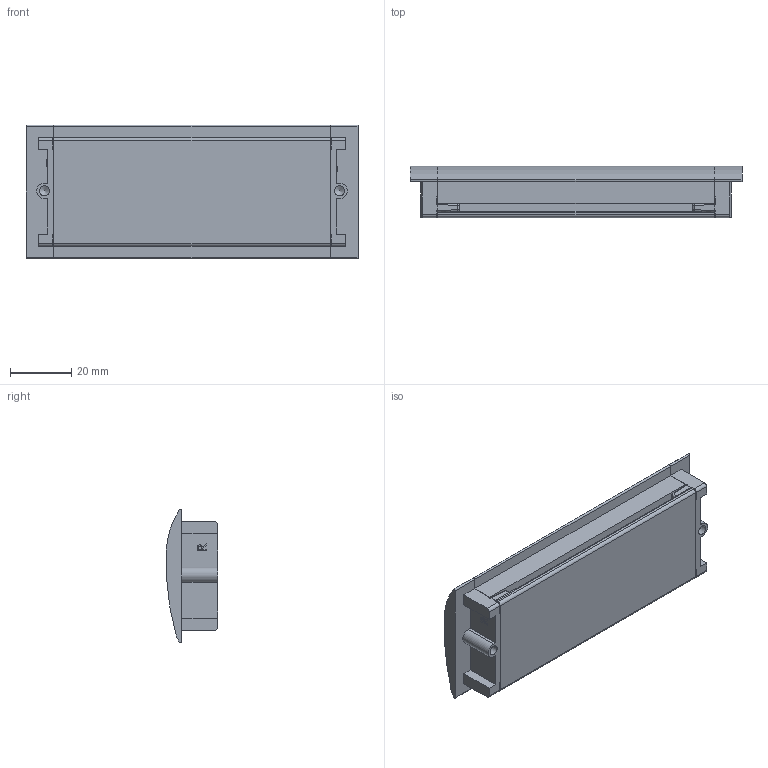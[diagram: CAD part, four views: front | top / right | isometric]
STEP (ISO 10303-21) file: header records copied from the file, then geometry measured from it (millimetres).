
FILE_DESCRIPTION(/* description */ (''),/* implementation_level */ '2;1');
FILE_NAME(/* name */ 'D:\$WorkingFolder\Designs\Meblowka\uchwyty\UA-...-326\UA-...-326...-..._\UA-...-326096-....stp',/* time_stamp */ '2020-11-20T10:35:37+01:00',/* author */ ('ElizaL'),/* organization */ (''),/* preprocessor_version */ 'ST-DEVELOPER v18.1',/* originating_system */ 'Autodesk Inventor 2020',/* authorisation */ '');
FILE_SCHEMA (('AUTOMOTIVE_DESIGN { 1 0 10303 214 3 1 1 }'));
Length unit declared in the file: millimetre
Products named in the file (1): UA-...-326096-...
Bounding box: 108 x 16.7 x 43.4 mm (x, y, z)
Volume: 19031.6 mm3; surface area: 19228 mm2
Topology: 3 solids, 3 shells, 231 faces, 582 edges, 362 vertices
Faces by surface type: plane 117, cylinder 73, bspline 23, sphere 16, cone 2
Full cylindrical faces by diameter (mm): 3.242 x2
Entity records: 7177 total; most frequent: CARTESIAN_POINT 1366, ORIENTED_EDGE 1160, DIRECTION 1150, EDGE_CURVE 580, LINE 400, VECTOR 400, AXIS2_PLACEMENT_3D 375, VERTEX_POINT 362
